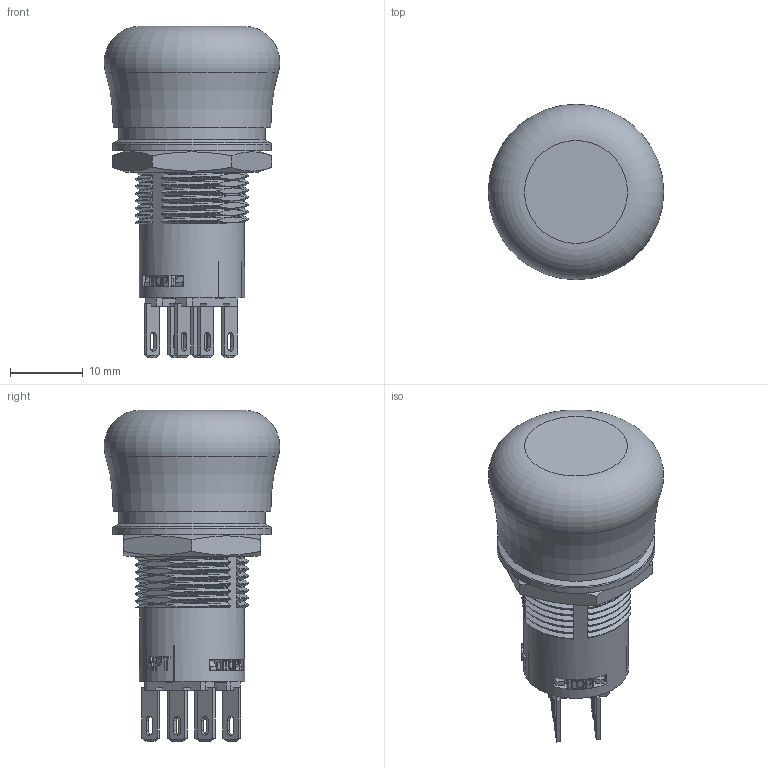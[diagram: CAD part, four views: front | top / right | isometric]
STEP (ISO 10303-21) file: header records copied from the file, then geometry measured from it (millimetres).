
FILE_DESCRIPTION(/* description */ (''),/* implementation_level */ '2;1');
FILE_NAME(/* name */ 'FM16N-SFP-22Z.stp',/* time_stamp */ '2020-08-12T10:00:52+08:00',/* author */ (''),/* organization */ (''),/* preprocessor_version */ 'ST-DEVELOPER v16.7',/* originating_system */ 'SIEMENS PLM Software NX 12.0',/* authorisation */ '');
FILE_SCHEMA (('AUTOMOTIVE_DESIGN { 1 0 10303 214 3 1 1 1 }'));
Length unit declared in the file: millimetre
Products named in the file (1): Admi2798C965xftl
Bounding box: 24.19 x 24.19 x 45.71 mm (x, y, z)
Volume: 5546.3 mm3; surface area: 10901.9 mm2
Topology: 4 solids, 4 shells, 1302 faces, 3653 edges, 2373 vertices
Faces by surface type: plane 999, cylinder 165, bspline 92, extrusion 24, cone 15, torus 7
Full cylindrical faces by diameter (mm): 0.5 x1, 1 x4, 1.1 x1, 14.5 x1, 15 x1, 15.5 x1, 15.7 x1, 16 x1, 17.3 x1, 17.5 x1, 17.8 x1, 18.2 x1, 20.2 x1, 20.6 x1, 21.8 x1
Entity records: 68968 total; most frequent: CARTESIAN_POINT 27492, ORIENTED_EDGE 7214, DIRECTION 5884, EDGE_CURVE 3607, VECTOR 2840, LINE 2816, VERTEX_POINT 2368, AXIS2_PLACEMENT_3D 1522
